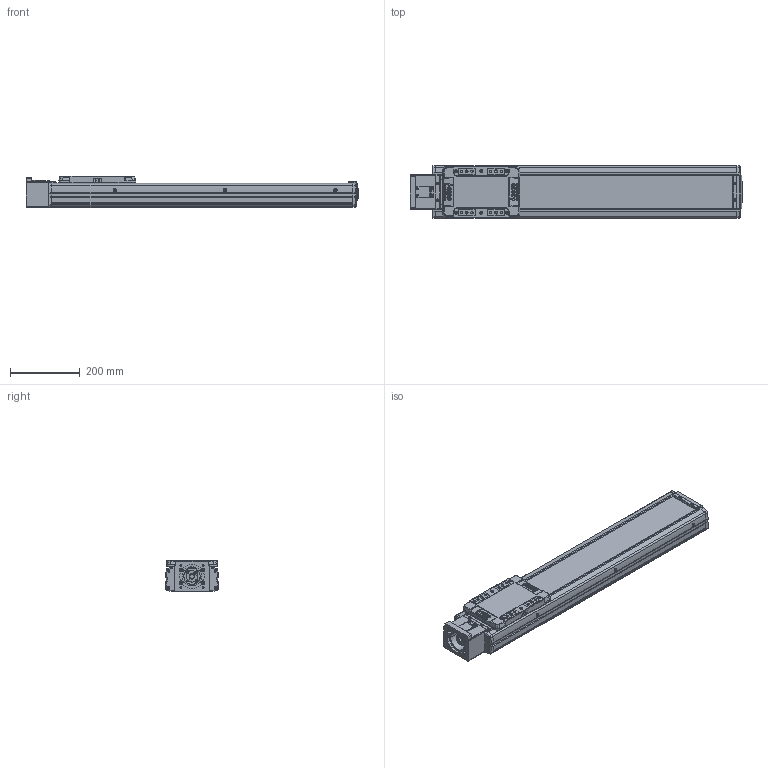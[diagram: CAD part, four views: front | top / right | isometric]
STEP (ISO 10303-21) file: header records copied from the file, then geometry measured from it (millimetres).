
FILE_DESCRIPTION(('STEP AP214'),'1');
FILE_NAME('Z:/Web/3D/SAN150/2013.04 (STP.)/SAN150ㅁㅁ-600S.stp','2013-05-07T11:24:14',(' '),(' '),'Spatial InterOp 3D',' ',' ');
FILE_SCHEMA(('automotive_design'));
Length unit declared in the file: millimetre
Products named in the file (77): SLBL-SAN150; SLCV-SAN150; FHCS M4.0 x 8.0; BHCS M4.0 x 10.0; SFX-SAN150; RRCV-SAN150; FRBL-SAN150; Spacer; RN15; FRCV-SAN150; Screw 20; BASE-SAN150-000L ; SUS COVER; 스크루 : Round - M5.0 x 6.0; BHCS M3.0 x 6.0; SSFX-SAN65; CPLCV-SAN65; SDWA47C(2); SDWA47C(3-1); SDWA47C(3); SDWA47C(1); SDWA47C(4); SDWA47C(5); MTHZ-SAN150-80
Bounding box: 949 x 150 x 90 mm (x, y, z)
Volume: 5418081.5 mm3; surface area: 1032342.4 mm2
Topology: 77 solids, 77 shells, 2911 faces, 7560 edges, 4874 vertices
Faces by surface type: plane 1230, cylinder 1191, cone 385, sphere 60, bspline 29, torus 16
Entity records: 117604 total; most frequent: CARTESIAN_POINT 19244, DIRECTION 16471, ORIENTED_EDGE 14888, EDGE_CURVE 7444, AXIS2_PLACEMENT_3D 6224, VERTEX_POINT 4874, LINE 4023, VECTOR 4023
